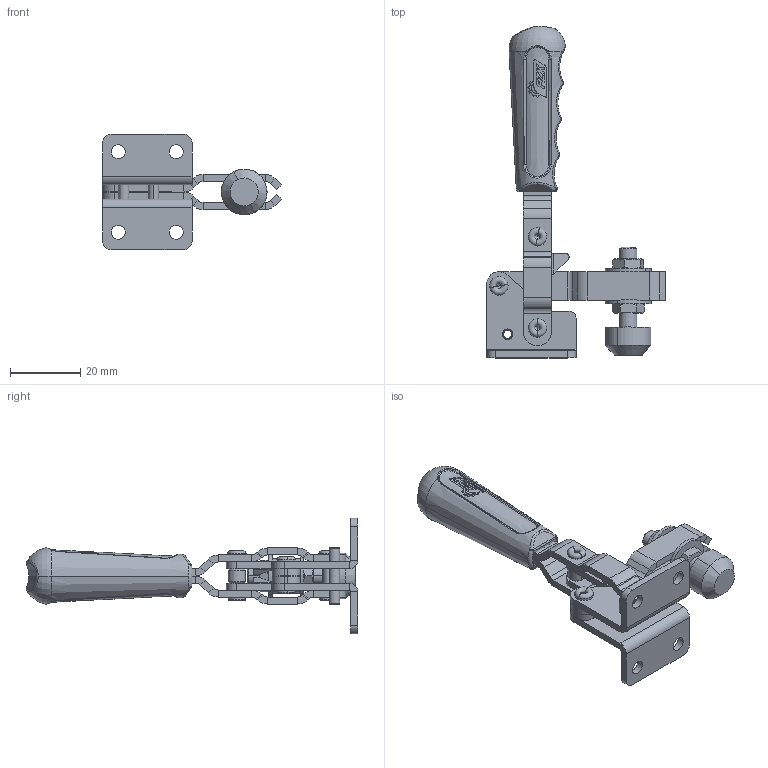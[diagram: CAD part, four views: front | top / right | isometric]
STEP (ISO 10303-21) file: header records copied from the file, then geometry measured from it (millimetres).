
FILE_DESCRIPTION (( 'STEP AP214' ), '1' );
FILE_NAME ('100_BLU.STEP', '2024-09-09T16:23:45', ( '' ), ( '' ), 'SwSTEP 2.0', 'SolidWorks 2023', '' );
FILE_SCHEMA (( 'AUTOMOTIVE_DESIGN' ));
Length unit declared in the file: millimetre
Products named in the file (17): DALDIRMA SAP; FZK_100_BLU_05_00; FZK_100_BLU_03_00; FZK_100_BLU_08_00; FZK_100_BLU_06_00; FZK_100_BLU_03A_00; FZK_100_BLU_07_00; FZK_100_BLU_04_00; FZK_100_BLU_01_00; FZK_100_BLU_09_00; hex bolt gradeab_din_ISO 4014 - M5 x 25 x 25-C; spring pin slotted_ld_din_Spring Pin ISO 13337 - 3 x 16 - St; 100_BLU; FZK_100_BLU_02_00; PUL M5 DIN 125; hex thin nut chamfered gradeab_iso_Hexagon Thin Nut ISO - 4035 - M5 - N; M5 PABUC
Assembly tree (22 placements, depth 3):
  100_BLU
    FZK_100_BLU_02_00  x2
    FZK_100_BLU_03_00
      FZK_100_BLU_03A_00  x2
    FZK_100_BLU_09_00
    FZK_100_BLU_04_00
    FZK_100_BLU_05_00
    FZK_100_BLU_01_00
    FZK_100_BLU_08_00
    hex thin nut chamfered gradeab_iso_Hexagon Thin Nut ISO - 4035 - M5 - N  x2
    PUL M5 DIN 125  x2
    FZK_100_BLU_07_00  x2
    DALDIRMA SAP
    M5 PABUC
    FZK_100_BLU_06_00  x2
    spring pin slotted_ld_din_Spring Pin ISO 13337 - 3 x 16 - St
    hex bolt gradeab_din_ISO 4014 - M5 x 25 x 25-C
Bounding box: 51 x 94.64 x 33 mm (x, y, z)
Volume: 14922.4 mm3; surface area: 16032.5 mm2
Topology: 21 solids, 21 shells, 816 faces, 1903 edges, 1135 vertices
Faces by surface type: plane 246, cylinder 224, bspline 213, cone 89, torus 24, sphere 20
Entity records: 31464 total; most frequent: CARTESIAN_POINT 17783, ORIENTED_EDGE 3024, DIRECTION 2222, EDGE_CURVE 1512, VERTEX_POINT 925, AXIS2_PLACEMENT_3D 897, EDGE_LOOP 699, FACE_OUTER_BOUND 637
